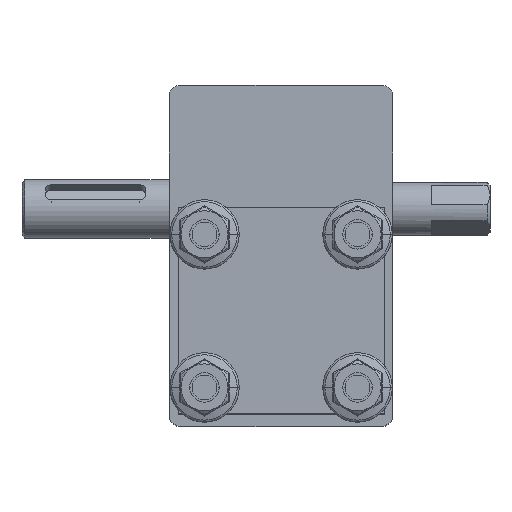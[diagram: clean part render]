
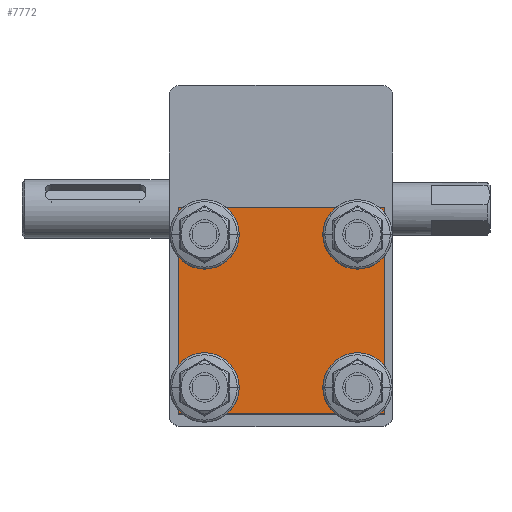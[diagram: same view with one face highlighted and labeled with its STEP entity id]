
A CAD part, top view. The second image highlights one B-rep face of the part: STEP entity #7772.
In plain terms, the highlighted planar face has unit normal (0, 0, 1) as drawn and (0, 0, -1) by its records, which use the part's own axes.
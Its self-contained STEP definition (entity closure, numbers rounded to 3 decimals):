
#132 = VECTOR ( 'NONE', #16487, 1000. ) ;
#319 = CIRCLE ( 'NONE', #8850, 2.75 ) ;
#366 = EDGE_CURVE ( 'NONE', #10947, #12319, #2341, .T. ) ;
#834 = CIRCLE ( 'NONE', #10491, 2.75 ) ;
#932 = DIRECTION ( 'NONE',  ( 0., 0., -1. ) ) ;
#1426 = VERTEX_POINT ( 'NONE', #19537 ) ;
#1448 = EDGE_CURVE ( 'NONE', #8035, #7025, #15865, .T. ) ;
#1781 = DIRECTION ( 'NONE',  ( 0., 0., -1. ) ) ;
#1789 = CARTESIAN_POINT ( 'NONE',  ( 4.5, 30.5, 0. ) ) ;
#1883 = EDGE_CURVE ( 'NONE', #7025, #17190, #3980, .T. ) ;
#1908 = CARTESIAN_POINT ( 'NONE',  ( 27.75, 30.5, 0. ) ) ;
#2002 = EDGE_CURVE ( 'NONE', #19044, #11858, #18994, .T. ) ;
#2065 = CARTESIAN_POINT ( 'NONE',  ( 0., 0., 0. ) ) ;
#2341 = CIRCLE ( 'NONE', #4994, 2.75 ) ;
#2777 = CARTESIAN_POINT ( 'NONE',  ( 1.75, 30.5, 0. ) ) ;
#3023 = CARTESIAN_POINT ( 'NONE',  ( 30.5, 30.5, 0. ) ) ;
#3060 = FACE_OUTER_BOUND ( 'NONE', #13641, .T. ) ;
#3265 = ORIENTED_EDGE ( 'NONE', *, *, #366, .F. ) ;
#3339 = DIRECTION ( 'NONE',  ( -1., 0., 0. ) ) ;
#3598 = CIRCLE ( 'NONE', #14682, 2.75 ) ;
#3722 = CIRCLE ( 'NONE', #8672, 2.75 ) ;
#3866 = CARTESIAN_POINT ( 'NONE',  ( 0., 35., 0. ) ) ;
#3980 = LINE ( 'NONE', #15413, #11758 ) ;
#4372 = DIRECTION ( 'NONE',  ( 0., 0., -1. ) ) ;
#4412 = CARTESIAN_POINT ( 'NONE',  ( 27.75, 4.5, 0. ) ) ;
#4599 = DIRECTION ( 'NONE',  ( -1., 0., 0. ) ) ;
#4808 = CARTESIAN_POINT ( 'NONE',  ( 33.25, 30.5, 0. ) ) ;
#4994 = AXIS2_PLACEMENT_3D ( 'NONE', #8266, #11728, #15030 ) ;
#5058 = EDGE_CURVE ( 'NONE', #17190, #19979, #16611, .T. ) ;
#5117 = DIRECTION ( 'NONE',  ( 0., 0., -1. ) ) ;
#5197 = CIRCLE ( 'NONE', #8185, 2.75 ) ;
#5293 = CARTESIAN_POINT ( 'NONE',  ( 33.25, 4.5, 0. ) ) ;
#5389 = LINE ( 'NONE', #2065, #17265 ) ;
#5804 = ORIENTED_EDGE ( 'NONE', *, *, #10481, .F. ) ;
#6024 = VERTEX_POINT ( 'NONE', #5293 ) ;
#6412 = CARTESIAN_POINT ( 'NONE',  ( 0., 0., 0. ) ) ;
#6507 = EDGE_CURVE ( 'NONE', #1426, #12116, #5197, .T. ) ;
#6561 = DIRECTION ( 'NONE',  ( 0., 0., -1. ) ) ;
#6683 = EDGE_CURVE ( 'NONE', #6024, #15352, #319, .T. ) ;
#6756 = DIRECTION ( 'NONE',  ( 0., -1., 0. ) ) ;
#6960 = ORIENTED_EDGE ( 'NONE', *, *, #8753, .F. ) ;
#7025 = VERTEX_POINT ( 'NONE', #19571 ) ;
#7378 = ORIENTED_EDGE ( 'NONE', *, *, #6683, .F. ) ;
#7468 = ORIENTED_EDGE ( 'NONE', *, *, #2002, .F. ) ;
#7730 = EDGE_CURVE ( 'NONE', #12319, #10947, #14205, .T. ) ;
#7772 = ADVANCED_FACE ( 'NONE', ( #14934, #11310, #15424, #19043, #3060 ), #9406, .T. ) ;
#7965 = DIRECTION ( 'NONE',  ( -1., 0., 0. ) ) ;
#8035 = VERTEX_POINT ( 'NONE', #10342 ) ;
#8168 = ORIENTED_EDGE ( 'NONE', *, *, #7730, .F. ) ;
#8185 = AXIS2_PLACEMENT_3D ( 'NONE', #13664, #4372, #15206 ) ;
#8266 = CARTESIAN_POINT ( 'NONE',  ( 30.5, 30.5, 0. ) ) ;
#8644 = CARTESIAN_POINT ( 'NONE',  ( 0., 35., 0. ) ) ;
#8672 = AXIS2_PLACEMENT_3D ( 'NONE', #14391, #5117, #15937 ) ;
#8753 = EDGE_CURVE ( 'NONE', #12116, #1426, #834, .T. ) ;
#8850 = AXIS2_PLACEMENT_3D ( 'NONE', #11083, #1781, #12637 ) ;
#9170 = EDGE_CURVE ( 'NONE', #15352, #6024, #3722, .T. ) ;
#9406 = PLANE ( 'NONE',  #10697 ) ;
#10027 = AXIS2_PLACEMENT_3D ( 'NONE', #3023, #13870, #4599 ) ;
#10245 = CARTESIAN_POINT ( 'NONE',  ( 4.5, 30.5, 0. ) ) ;
#10292 = CARTESIAN_POINT ( 'NONE',  ( 1.75, 4.5, 0. ) ) ;
#10342 = CARTESIAN_POINT ( 'NONE',  ( 0., 0., 0. ) ) ;
#10359 = DIRECTION ( 'NONE',  ( 1., 0., 0. ) ) ;
#10481 = EDGE_CURVE ( 'NONE', #19979, #8035, #5389, .T. ) ;
#10491 = AXIS2_PLACEMENT_3D ( 'NONE', #15812, #6561, #17393 ) ;
#10697 = AXIS2_PLACEMENT_3D ( 'NONE', #6412, #10955, #7965 ) ;
#10947 = VERTEX_POINT ( 'NONE', #1908 ) ;
#10955 = DIRECTION ( 'NONE',  ( 0., 0., -1. ) ) ;
#11083 = CARTESIAN_POINT ( 'NONE',  ( 30.5, 4.5, 0. ) ) ;
#11310 = FACE_BOUND ( 'NONE', #12441, .T. ) ;
#11728 = DIRECTION ( 'NONE',  ( 0., 0., -1. ) ) ;
#11758 = VECTOR ( 'NONE', #20076, 1000. ) ;
#11780 = VECTOR ( 'NONE', #10359, 1000. ) ;
#11808 = DIRECTION ( 'NONE',  ( -1., 0., 0. ) ) ;
#11858 = VERTEX_POINT ( 'NONE', #12363 ) ;
#12116 = VERTEX_POINT ( 'NONE', #10292 ) ;
#12319 = VERTEX_POINT ( 'NONE', #4808 ) ;
#12363 = CARTESIAN_POINT ( 'NONE',  ( 7.25, 30.5, 0. ) ) ;
#12441 = EDGE_LOOP ( 'NONE', ( #7378, #14063 ) ) ;
#12637 = DIRECTION ( 'NONE',  ( -1., 0., 0. ) ) ;
#12641 = DIRECTION ( 'NONE',  ( 0., 0., -1. ) ) ;
#12942 = AXIS2_PLACEMENT_3D ( 'NONE', #1789, #12641, #3339 ) ;
#13641 = EDGE_LOOP ( 'NONE', ( #5804, #17052, #18440, #19660 ) ) ;
#13664 = CARTESIAN_POINT ( 'NONE',  ( 4.5, 4.5, 0. ) ) ;
#13870 = DIRECTION ( 'NONE',  ( 0., 0., -1. ) ) ;
#14063 = ORIENTED_EDGE ( 'NONE', *, *, #9170, .F. ) ;
#14095 = ORIENTED_EDGE ( 'NONE', *, *, #17197, .F. ) ;
#14205 = CIRCLE ( 'NONE', #10027, 2.75 ) ;
#14391 = CARTESIAN_POINT ( 'NONE',  ( 30.5, 4.5, 0. ) ) ;
#14682 = AXIS2_PLACEMENT_3D ( 'NONE', #10245, #932, #11808 ) ;
#14934 = FACE_BOUND ( 'NONE', #18019, .T. ) ;
#15030 = DIRECTION ( 'NONE',  ( -1., 0., 0. ) ) ;
#15206 = DIRECTION ( 'NONE',  ( -1., 0., 0. ) ) ;
#15352 = VERTEX_POINT ( 'NONE', #4412 ) ;
#15413 = CARTESIAN_POINT ( 'NONE',  ( 35., 0., 0. ) ) ;
#15424 = FACE_BOUND ( 'NONE', #18100, .T. ) ;
#15812 = CARTESIAN_POINT ( 'NONE',  ( 4.5, 4.5, 0. ) ) ;
#15865 = LINE ( 'NONE', #19606, #11780 ) ;
#15937 = DIRECTION ( 'NONE',  ( -1., 0., 0. ) ) ;
#16487 = DIRECTION ( 'NONE',  ( -1., 0., 0. ) ) ;
#16583 = ORIENTED_EDGE ( 'NONE', *, *, #6507, .F. ) ;
#16611 = LINE ( 'NONE', #8644, #132 ) ;
#16760 = EDGE_LOOP ( 'NONE', ( #14095, #7468 ) ) ;
#17052 = ORIENTED_EDGE ( 'NONE', *, *, #5058, .F. ) ;
#17190 = VERTEX_POINT ( 'NONE', #17896 ) ;
#17197 = EDGE_CURVE ( 'NONE', #11858, #19044, #3598, .T. ) ;
#17265 = VECTOR ( 'NONE', #6756, 1000. ) ;
#17393 = DIRECTION ( 'NONE',  ( -1., 0., 0. ) ) ;
#17896 = CARTESIAN_POINT ( 'NONE',  ( 35., 35., 0. ) ) ;
#18019 = EDGE_LOOP ( 'NONE', ( #8168, #3265 ) ) ;
#18100 = EDGE_LOOP ( 'NONE', ( #16583, #6960 ) ) ;
#18440 = ORIENTED_EDGE ( 'NONE', *, *, #1883, .F. ) ;
#18994 = CIRCLE ( 'NONE', #12942, 2.75 ) ;
#19043 = FACE_BOUND ( 'NONE', #16760, .T. ) ;
#19044 = VERTEX_POINT ( 'NONE', #2777 ) ;
#19537 = CARTESIAN_POINT ( 'NONE',  ( 7.25, 4.5, 0. ) ) ;
#19571 = CARTESIAN_POINT ( 'NONE',  ( 35., 0., 0. ) ) ;
#19606 = CARTESIAN_POINT ( 'NONE',  ( 0., 0., 0. ) ) ;
#19660 = ORIENTED_EDGE ( 'NONE', *, *, #1448, .F. ) ;
#19979 = VERTEX_POINT ( 'NONE', #3866 ) ;
#20076 = DIRECTION ( 'NONE',  ( 0., 1., 0. ) ) ;
